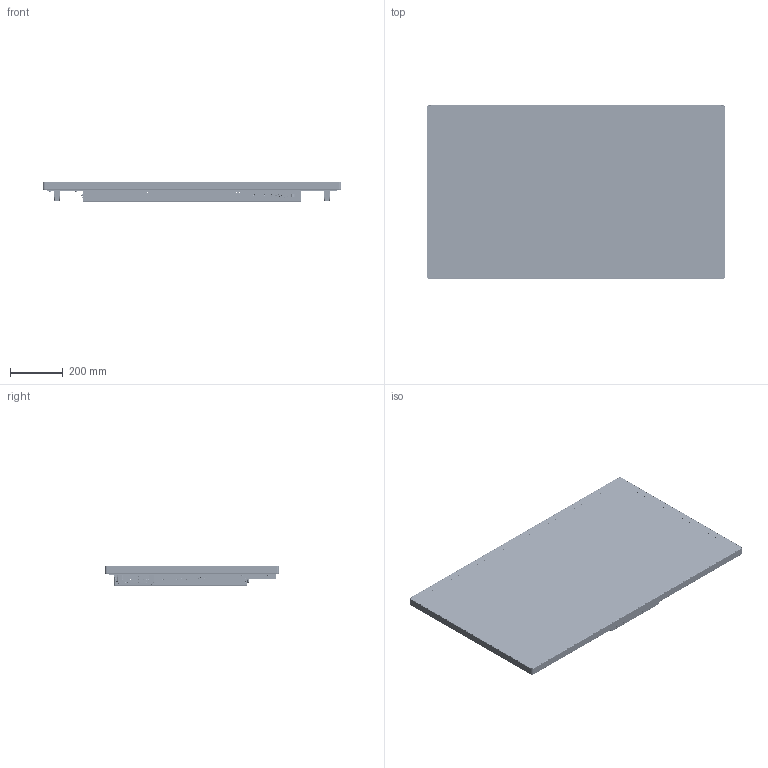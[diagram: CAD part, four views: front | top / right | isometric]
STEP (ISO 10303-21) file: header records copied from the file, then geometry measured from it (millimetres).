
FILE_DESCRIPTION((''),'2;1');
FILE_NAME('URP492-ERO-T-20250208_ASM_1_ASM','2025-07-09T16:52:36',('曾'),('制作'),'CREO PARAMETRIC BY PTC INC, 2018500','CREO PARAMETRIC BY PTC INC, 2018500','');
FILE_SCHEMA(('CONFIG_CONTROL_DESIGN','GEOMETRIC_VALIDATION_PROPERTIES_MIM'));
Products named in the file (61): 49-CGTP_18_1_1; 49-CG-TP-OC_ASM_22_ASM_1_ASM_1_ASM; SCREW-BOLT_M6-25-5_3_18_1_1_1; 490_HANGING-COLUMU-25_ASM_6_A_1_ASM; LB-HEEL_1_1_19_1_1_1; LB-HEEL_1_2_19_1_1_1; LB-HEEL_1_ASM_18_ASM_1_1_ASM_1_ASM; 00_490-ADVERTISING-MACHINE_20_1_ASM; 49-INNER-FRAME-T_19_1_1; 49-INNER-FRAME-L_19_1_1; 49-INNER-FRAME-R_19_1_1; 49-INNER-FRAME_ASM_22_ASM_1_ASM_ASM; 49-OUTSIDE-FRAME-T_19_1_1; 49-OUTSIDE-FRAME-B_19_1_1; 49-OUTSIDE-FRAME-L_19_1_1; 49-OUTSIDE-FRAME-R_19_1_1; 49-OUTSIDE-FRAME_ASM_22_ASM_1_A_ASM; SIDECOVER-TOP_1_21_1_1_1; SIDECOVE-RIGHT_1_20_1_1_1; SIDECOVER-LEFT_1_20_1_1_1; 55JQT-BOTT_1_19_1_1; 55-BACKLIGHT_ASM_1_ASM_22_ASM_2_ASM; HDMI-1_2_1_1_24_4_1_13_3_20_1_2; USB_TYPEC_2_1_1_24_4_1_13_3_2_1; DP_24_4_1_13_3_20_1_18_1_1_1; USB_B-3_3_1_2_11_24_3_1_13_3__2; IR_35_11_1-8437640_2_1252_24__1; S232EDU_MS8386_17-1015_1_3_1__1; RJ45ZP5_PRT_1_1_1_1_1_1252333_1; SPDIF_PLT_24_4_1_13_3_19_1_18_2; PRT0009_3_19_1_18_1_1_1; USB-LS-3-0_24_2_1_1_2_50_1_1__1; RESET-KEY_1_18_1_1_1; MAIN-PCBA_ASM_8_ASM_21_ASM_1__1_ASM; 49-55-65-AD-BOARD-HOLDER_1_9__1; 2738-MAIN-PCBA_ASM_8_ASM_ASM__1_ASM; WXQ-8KEY-IR-RB-A-1_0_ASM_1_AS_2_ASM; MZ_1_1_1_18_1_1_1; ASM0003_ASM_1_ASM_1_ASM_1_ASM_2_ASM; 7J_ASM_3_ASM_1_ASM_18_ASM_1_1_A_ASM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
Assembly tree (70 placements, depth 9):
  URP492-ERO-T-20250208_ASM_1_ASM
    00-URP-KINGMAN-49_ASM_ASM_1_1_A_ASM
      00-URP-KINGMAN-49_ASM_22_ASM__1_ASM
        49-CG-TP-OC_ASM_22_ASM_1_ASM_1_ASM
          49-CGTP_18_1_1
        00_490-ADVERTISING-MACHINE_20_1_ASM
          490_HANGING-COLUMU-25_ASM_6_A_1_ASM
            SCREW-BOLT_M6-25-5_3_18_1_1_1  x4
          LB-HEEL_1_ASM_18_ASM_1_1_ASM_1_ASM
            LB-HEEL_1_1_19_1_1_1
            LB-HEEL_1_2_19_1_1_1
        49-INNER-FRAME_ASM_22_ASM_1_ASM_ASM
          49-INNER-FRAME-T_19_1_1
          49-INNER-FRAME-L_19_1_1
          49-INNER-FRAME-R_19_1_1
        49-OUTSIDE-FRAME_ASM_22_ASM_1_A_ASM
          49-OUTSIDE-FRAME-T_19_1_1
          49-OUTSIDE-FRAME-B_19_1_1
          49-OUTSIDE-FRAME-L_19_1_1  x2
          49-OUTSIDE-FRAME-R_19_1_1
        BOARDS-AND-BACKCOVERS_ASM_ASM_1_ASM
          55-BACKLIGHT_ASM_1_ASM_22_ASM_2_ASM
            SIDECOVER-TOP_1_21_1_1_1
            SIDECOVE-RIGHT_1_20_1_1_1
            SIDECOVER-LEFT_1_20_1_1_1
            55JQT-BOTT_1_19_1_1
          2738-MAIN-PCBA_ASM_8_ASM_ASM__1_ASM
            MAIN-PCBA_ASM_8_ASM_21_ASM_1__1_ASM
              HDMI-1_2_1_1_24_4_1_13_3_20_1_2  x2
              USB_TYPEC_2_1_1_24_4_1_13_3_2_1
              DP_24_4_1_13_3_20_1_18_1_1_1  x3
              USB_B-3_3_1_2_11_24_3_1_13_3__2
              IR_35_11_1-8437640_2_1252_24__1
              S232EDU_MS8386_17-1015_1_3_1__1
              RJ45ZP5_PRT_1_1_1_1_1_1252333_1
              SPDIF_PLT_24_4_1_13_3_19_1_18_2
              PRT0009_3_19_1_18_1_1_1
              USB-LS-3-0_24_2_1_1_2_50_1_1__1
              RESET-KEY_1_18_1_1_1
            49-55-65-AD-BOARD-HOLDER_1_9__1
          7-WXQ-ANJIAN_1__ASM_1_ASM_18__1_ASM
            ASM0002_ASM_12_ASM_1_ASM_18_A_1_ASM
              7J_ASM_3_ASM_1_ASM_18_ASM_1_1_A_ASM
                ASM0003_ASM_1_ASM_1_ASM_1_ASM_2_ASM
                  WXQ-8KEY-IR-RB-A-1_0_ASM_1_AS_2_ASM
                  MZ_1_1_1_18_1_1_1
          550_AC-IN_LB_ASM_5_ASM_1_ASM__1_ASM
            AC-OUT_1_18_1_1_1
            TS27_2_1_1_1_18_1_1_1
            AN-IN_AC-1_2_1_18_1_1_1
            AC-IN_ROCKER-SWITCH_3_1_18_1_1_
          55DA2-V_S-PCB-COVER_3_1_20_1_1
          550_BACK-COVER-C2_13_1_20_1_1_1
          BACKCOVER-RIGHT_1_19_1_1_1
        KM3-6_18_1_1_1  x2
        ASM0006_ASM_16_ASM_1_1_ASM_1_ASM
          SPEAKERS_ASM_ASM_ASM_4_ASM_16_1_ASM
            1424_ASM_4_ASM_16_ASM_1_1_ASM_1_ASM  x2
              ADMI16FC0D8E159G_ASM_4_ASM_16_1_ASM
                ADMI16FC0D8E159G_1_4_16_1_1_1
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Bounding box: 1128.2 x 658.4 x 73.8 mm (x, y, z)
Volume: 4771769.1 mm3; surface area: 4291029.4 mm2
Topology: 48 solids, 63 shells, 12113 faces, 35399 edges, 23521 vertices
Faces by surface type: cylinder 6878, plane 4582, cone 350, torus 98, bspline 96, extrusion 81, sphere 28
Entity records: 443524 total; most frequent: CARTESIAN_POINT 64714, DIRECTION 62752, ORIENTED_EDGE 58112, PRESENTATION_STYLE_ASSIGNMENT 29116, STYLED_ITEM 29116, CURVE_STYLE 29071, EDGE_CURVE 29071, AXIS2_PLACEMENT_3D 24012
